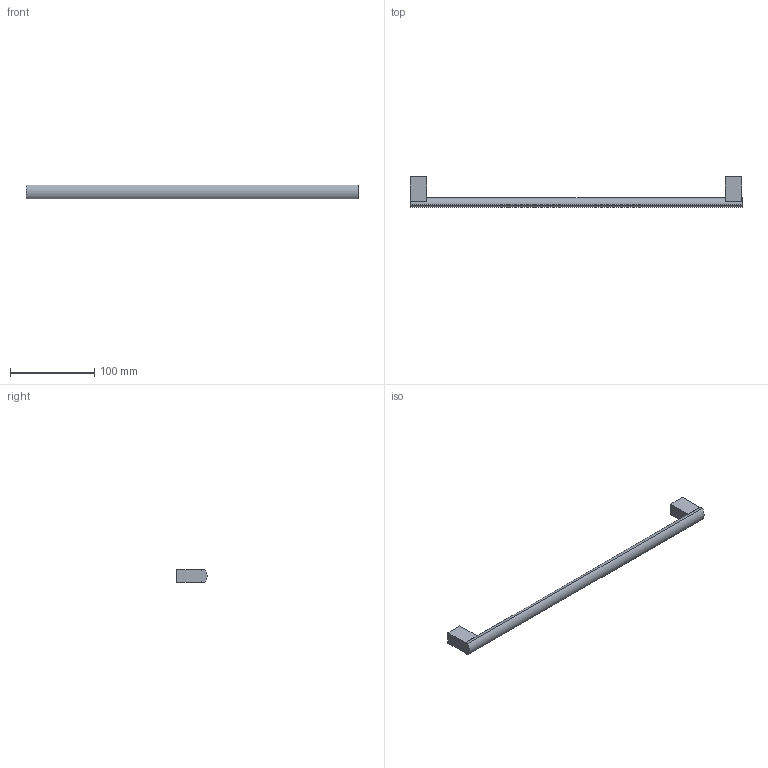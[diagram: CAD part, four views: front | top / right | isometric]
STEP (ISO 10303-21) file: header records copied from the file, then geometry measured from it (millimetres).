
FILE_DESCRIPTION( ( 'STEP AP214' ), '1' );
FILE_NAME( 'D:/Shahbaz D&D/Task/Check and correct handles with 3 drill sockets/Clivia/115359.stp', '2023-02-20T10:50:50', ( '' ), ( '' ), ' ', 'PARTsolutions', ' ' );
FILE_SCHEMA( ( 'AUTOMOTIVE_DESIGN { 1 0 10303 214 1 1 1 1 }' ) );
Length unit declared in the file: millimetre
Products named in the file (1): _115359
Bounding box: 394 x 35.96 x 16 mm (x, y, z)
Volume: 68191.8 mm3; surface area: 21127.8 mm2
Topology: 1 solids, 1 shells, 21 faces, 48 edges, 32 vertices
Faces by surface type: plane 17, cylinder 4
Full cylindrical faces by diameter (mm): 4 x2
Entity records: 768 total; most frequent: DIRECTION 102, CARTESIAN_POINT 100, ORIENTED_EDGE 92, EDGE_CURVE 46, AXIS2_PLACEMENT_3D 34, LINE 34, VECTOR 34, VERTEX_POINT 32
